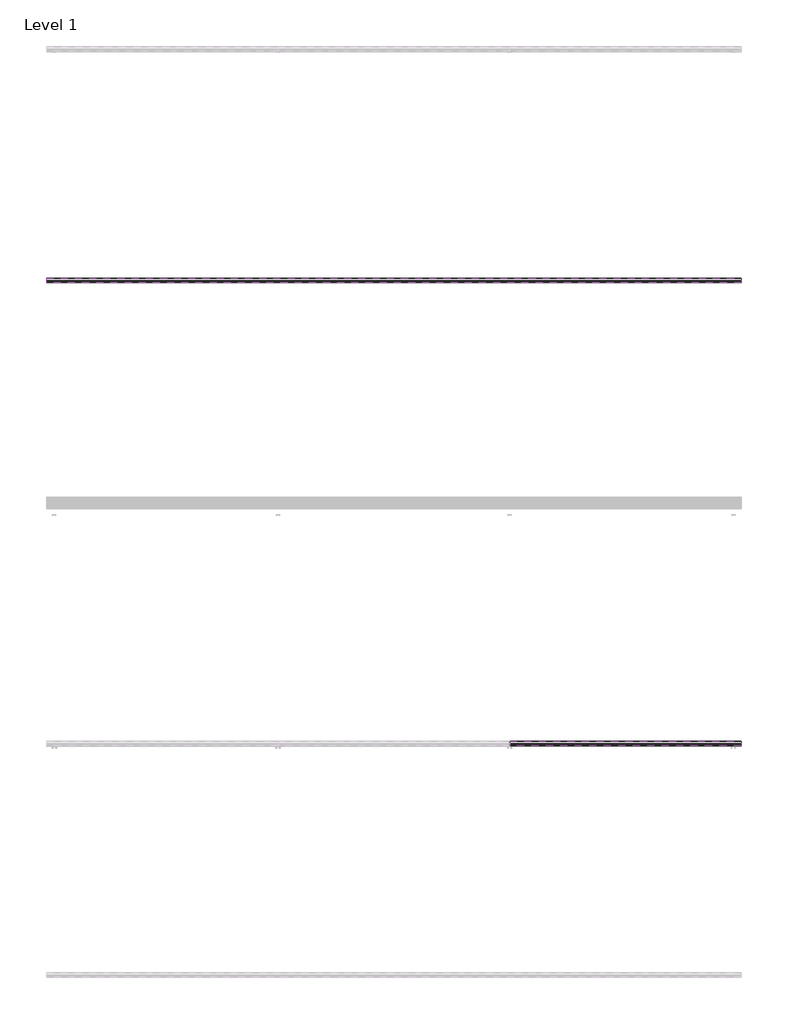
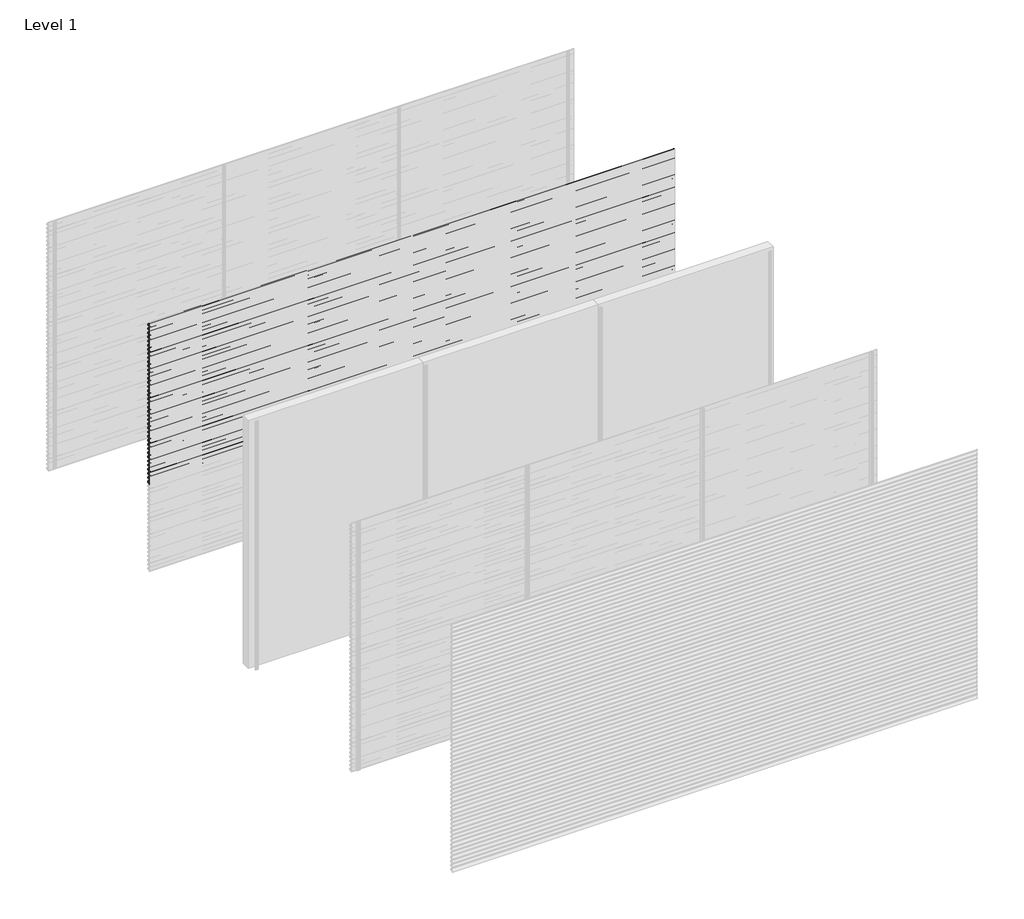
# One storey, part 35 of 38: 66 proxies.
"""IFC4 building model written with IfcOpenShell, lengths in millimetres."""

from ifc_helpers import new_model, si_unit, frame, origin, place, context, project, spatial, polyline, outline, extrude, element, save

model = new_model("IFC4")

# Units and contexts
model_context = context("Model", 3, world=origin())
ifc_project = project(units=[si_unit("LENGTHUNIT", "METRE", prefix="MILLI")], contexts=[model_context])

# Site, building, storey
site = spatial("IfcSite", under=ifc_project)
building = spatial("IfcBuilding", under=site)
storey = spatial("IfcBuildingStorey", under=building, Name="Level 1", Elevation=0.0)

# Proxies
placement = place(None, origin())
element("IfcBuildingElementProxy", 1, Name="Wall Sweeps", at=placement, inside=storey, context=model_context, shape_type="SweptSolid", body=[
    extrude(outline(polyline([(-1996.75, 3000.0), (-1996.75, 2989.19656), (-1974.6057113, 2976.4115489), (-1957.0, 2959.0472005), (-1957.0, 2944.0472005), (-1958.3, 2945.0268207), (-1958.3, 2958.5034593), (-1969.4914725, 2969.541504), (-1994.2797376, 2940.0), (-1995.9767671, 2940.0), (-1970.4200307, 2970.4573323), (-1975.3999793, 2975.3690091), (-1998.0, 2988.4171371), (-1998.0, 3000.0), (-1996.75, 3000.0)])), frame((0.0, 0.0, 0.0), z_axis=(1.0, 0.0, 0.0), x_axis=(0.0, 1.0, 0.0)), (0.0, 0.0, 1.0), 6000.0),
])
element("IfcBuildingElementProxy", 2, Name="Wall Sweeps", at=placement, inside=storey, context=model_context, shape_type="SweptSolid", body=[
    extrude(outline(polyline([(-1996.75, 2950.0), (-1996.75, 2939.19656), (-1974.6057113, 2926.4115489), (-1957.0, 2909.0472005), (-1957.0, 2894.0472005), (-1958.3, 2895.0268207), (-1958.3, 2908.5034593), (-1969.4914725, 2919.541504), (-1994.2797376, 2890.0), (-1995.9767671, 2890.0), (-1970.4200307, 2920.4573323), (-1975.3999793, 2925.3690091), (-1998.0, 2938.4171371), (-1998.0, 2950.0), (-1996.75, 2950.0)])), frame((0.0, 0.0, 0.0), z_axis=(1.0, 0.0, 0.0), x_axis=(0.0, 1.0, 0.0)), (0.0, 0.0, 1.0), 6000.0),
])
element("IfcBuildingElementProxy", 3, Name="Wall Sweeps", at=placement, inside=storey, context=model_context, shape_type="SweptSolid", body=[
    extrude(outline(polyline([(-1996.75, 2900.0), (-1996.75, 2889.19656), (-1974.6057113, 2876.4115489), (-1957.0, 2859.0472005), (-1957.0, 2844.0472005), (-1958.3, 2845.0268207), (-1958.3, 2858.5034593), (-1969.4914725, 2869.541504), (-1994.2797376, 2840.0), (-1995.9767671, 2840.0), (-1970.4200307, 2870.4573323), (-1975.3999793, 2875.3690091), (-1998.0, 2888.4171371), (-1998.0, 2900.0), (-1996.75, 2900.0)])), frame((0.0, 0.0, 0.0), z_axis=(1.0, 0.0, 0.0), x_axis=(0.0, 1.0, 0.0)), (0.0, 0.0, 1.0), 6000.0),
])
element("IfcBuildingElementProxy", 4, Name="Wall Sweeps", at=placement, inside=storey, context=model_context, shape_type="SweptSolid", body=[
    extrude(outline(polyline([(-1996.75, 2850.0), (-1996.75, 2839.19656), (-1974.6057113, 2826.4115489), (-1957.0, 2809.0472005), (-1957.0, 2794.0472005), (-1958.3, 2795.0268207), (-1958.3, 2808.5034593), (-1969.4914725, 2819.541504), (-1994.2797376, 2790.0), (-1995.9767671, 2790.0), (-1970.4200307, 2820.4573323), (-1975.3999793, 2825.3690091), (-1998.0, 2838.4171371), (-1998.0, 2850.0), (-1996.75, 2850.0)])), frame((0.0, 0.0, 0.0), z_axis=(1.0, 0.0, 0.0), x_axis=(0.0, 1.0, 0.0)), (0.0, 0.0, 1.0), 6000.0),
])
element("IfcBuildingElementProxy", 5, Name="Wall Sweeps", at=placement, inside=storey, context=model_context, shape_type="SweptSolid", body=[
    extrude(outline(polyline([(-1996.75, 2800.0), (-1996.75, 2789.19656), (-1974.6057113, 2776.4115489), (-1957.0, 2759.0472005), (-1957.0, 2744.0472005), (-1958.3, 2745.0268207), (-1958.3, 2758.5034593), (-1969.4914725, 2769.541504), (-1994.2797376, 2740.0), (-1995.9767671, 2740.0), (-1970.4200307, 2770.4573323), (-1975.3999793, 2775.3690091), (-1998.0, 2788.4171371), (-1998.0, 2800.0), (-1996.75, 2800.0)])), frame((0.0, 0.0, 0.0), z_axis=(1.0, 0.0, 0.0), x_axis=(0.0, 1.0, 0.0)), (0.0, 0.0, 1.0), 6000.0),
])
element("IfcBuildingElementProxy", 6, Name="Wall Sweeps", at=placement, inside=storey, context=model_context, shape_type="SweptSolid", body=[
    extrude(outline(polyline([(-1996.75, 2750.0), (-1996.75, 2739.19656), (-1974.6057113, 2726.4115489), (-1957.0, 2709.0472005), (-1957.0, 2694.0472005), (-1958.3, 2695.0268207), (-1958.3, 2708.5034593), (-1969.4914725, 2719.541504), (-1994.2797376, 2690.0), (-1995.9767671, 2690.0), (-1970.4200307, 2720.4573323), (-1975.3999793, 2725.3690091), (-1998.0, 2738.4171371), (-1998.0, 2750.0), (-1996.75, 2750.0)])), frame((0.0, 0.0, 0.0), z_axis=(1.0, 0.0, 0.0), x_axis=(0.0, 1.0, 0.0)), (0.0, 0.0, 1.0), 6000.0),
])
element("IfcBuildingElementProxy", 7, Name="Wall Sweeps", at=placement, inside=storey, context=model_context, shape_type="SweptSolid", body=[
    extrude(outline(polyline([(-1996.75, 2700.0), (-1996.75, 2689.19656), (-1974.6057113, 2676.4115489), (-1957.0, 2659.0472005), (-1957.0, 2644.0472005), (-1958.3, 2645.0268207), (-1958.3, 2658.5034593), (-1969.4914725, 2669.541504), (-1994.2797376, 2640.0), (-1995.9767671, 2640.0), (-1970.4200307, 2670.4573323), (-1975.3999793, 2675.3690091), (-1998.0, 2688.4171371), (-1998.0, 2700.0), (-1996.75, 2700.0)])), frame((0.0, 0.0, 0.0), z_axis=(1.0, 0.0, 0.0), x_axis=(0.0, 1.0, 0.0)), (0.0, 0.0, 1.0), 6000.0),
])
element("IfcBuildingElementProxy", 8, Name="Wall Sweeps", at=placement, inside=storey, context=model_context, shape_type="SweptSolid", body=[
    extrude(outline(polyline([(-1996.75, 2650.0), (-1996.75, 2639.19656), (-1974.6057113, 2626.4115489), (-1957.0, 2609.0472005), (-1957.0, 2594.0472005), (-1958.3, 2595.0268207), (-1958.3, 2608.5034593), (-1969.4914725, 2619.541504), (-1994.2797376, 2590.0), (-1995.9767671, 2590.0), (-1970.4200307, 2620.4573323), (-1975.3999793, 2625.3690091), (-1998.0, 2638.4171371), (-1998.0, 2650.0), (-1996.75, 2650.0)])), frame((0.0, 0.0, 0.0), z_axis=(1.0, 0.0, 0.0), x_axis=(0.0, 1.0, 0.0)), (0.0, 0.0, 1.0), 6000.0),
])
element("IfcBuildingElementProxy", 9, Name="Wall Sweeps", at=placement, inside=storey, context=model_context, shape_type="SweptSolid", body=[
    extrude(outline(polyline([(-1996.75, 2600.0), (-1996.75, 2589.19656), (-1974.6057113, 2576.4115489), (-1957.0, 2559.0472005), (-1957.0, 2544.0472005), (-1958.3, 2545.0268207), (-1958.3, 2558.5034593), (-1969.4914725, 2569.541504), (-1994.2797376, 2540.0), (-1995.9767671, 2540.0), (-1970.4200307, 2570.4573323), (-1975.3999793, 2575.3690091), (-1998.0, 2588.4171371), (-1998.0, 2600.0), (-1996.75, 2600.0)])), frame((0.0, 0.0, 0.0), z_axis=(1.0, 0.0, 0.0), x_axis=(0.0, 1.0, 0.0)), (0.0, 0.0, 1.0), 6000.0),
])
element("IfcBuildingElementProxy", 10, Name="Wall Sweeps", at=placement, inside=storey, context=model_context, shape_type="SweptSolid", body=[
    extrude(outline(polyline([(-1996.75, 2550.0), (-1996.75, 2539.19656), (-1974.6057113, 2526.4115489), (-1957.0, 2509.0472005), (-1957.0, 2494.0472005), (-1958.3, 2495.0268207), (-1958.3, 2508.5034593), (-1969.4914725, 2519.541504), (-1994.2797376, 2490.0), (-1995.9767671, 2490.0), (-1970.4200307, 2520.4573323), (-1975.3999793, 2525.3690091), (-1998.0, 2538.4171371), (-1998.0, 2550.0), (-1996.75, 2550.0)])), frame((0.0, 0.0, 0.0), z_axis=(1.0, 0.0, 0.0), x_axis=(0.0, 1.0, 0.0)), (0.0, 0.0, 1.0), 6000.0),
])
element("IfcBuildingElementProxy", 11, Name="Wall Sweeps", at=placement, inside=storey, context=model_context, shape_type="SweptSolid", body=[
    extrude(outline(polyline([(-1996.75, 2500.0), (-1996.75, 2489.19656), (-1974.6057113, 2476.4115489), (-1957.0, 2459.0472005), (-1957.0, 2444.0472005), (-1958.3, 2445.0268207), (-1958.3, 2458.5034593), (-1969.4914725, 2469.541504), (-1994.2797376, 2440.0), (-1995.9767671, 2440.0), (-1970.4200307, 2470.4573323), (-1975.3999793, 2475.3690091), (-1998.0, 2488.4171371), (-1998.0, 2500.0), (-1996.75, 2500.0)])), frame((0.0, 0.0, 0.0), z_axis=(1.0, 0.0, 0.0), x_axis=(0.0, 1.0, 0.0)), (0.0, 0.0, 1.0), 6000.0),
])
element("IfcBuildingElementProxy", 12, Name="Wall Sweeps", at=placement, inside=storey, context=model_context, shape_type="SweptSolid", body=[
    extrude(outline(polyline([(-1996.75, 2450.0), (-1996.75, 2439.19656), (-1974.6057113, 2426.4115489), (-1957.0, 2409.0472005), (-1957.0, 2394.0472005), (-1958.3, 2395.0268207), (-1958.3, 2408.5034593), (-1969.4914725, 2419.541504), (-1994.2797376, 2390.0), (-1995.9767671, 2390.0), (-1970.4200307, 2420.4573323), (-1975.3999793, 2425.3690091), (-1998.0, 2438.4171371), (-1998.0, 2450.0), (-1996.75, 2450.0)])), frame((0.0, 0.0, 0.0), z_axis=(1.0, 0.0, 0.0), x_axis=(0.0, 1.0, 0.0)), (0.0, 0.0, 1.0), 6000.0),
])
element("IfcBuildingElementProxy", 13, Name="Wall Sweeps", at=placement, inside=storey, context=model_context, shape_type="SweptSolid", body=[
    extrude(outline(polyline([(-1996.75, 2400.0), (-1996.75, 2389.19656), (-1974.6057113, 2376.4115489), (-1957.0, 2359.0472005), (-1957.0, 2344.0472005), (-1958.3, 2345.0268207), (-1958.3, 2358.5034593), (-1969.4914725, 2369.541504), (-1994.2797376, 2340.0), (-1995.9767671, 2340.0), (-1970.4200307, 2370.4573323), (-1975.3999793, 2375.3690091), (-1998.0, 2388.4171371), (-1998.0, 2400.0), (-1996.75, 2400.0)])), frame((0.0, 0.0, 0.0), z_axis=(1.0, 0.0, 0.0), x_axis=(0.0, 1.0, 0.0)), (0.0, 0.0, 1.0), 6000.0),
])
element("IfcBuildingElementProxy", 14, Name="Wall Sweeps", at=placement, inside=storey, context=model_context, shape_type="SweptSolid", body=[
    extrude(outline(polyline([(-1996.75, 2350.0), (-1996.75, 2339.19656), (-1974.6057113, 2326.4115489), (-1957.0, 2309.0472005), (-1957.0, 2294.0472005), (-1958.3, 2295.0268207), (-1958.3, 2308.5034593), (-1969.4914725, 2319.541504), (-1994.2797376, 2290.0), (-1995.9767671, 2290.0), (-1970.4200307, 2320.4573323), (-1975.3999793, 2325.3690091), (-1998.0, 2338.4171371), (-1998.0, 2350.0), (-1996.75, 2350.0)])), frame((0.0, 0.0, 0.0), z_axis=(1.0, 0.0, 0.0), x_axis=(0.0, 1.0, 0.0)), (0.0, 0.0, 1.0), 6000.0),
])
element("IfcBuildingElementProxy", 15, Name="Wall Sweeps", at=placement, inside=storey, context=model_context, shape_type="SweptSolid", body=[
    extrude(outline(polyline([(-1996.75, 2300.0), (-1996.75, 2289.19656), (-1974.6057113, 2276.4115489), (-1957.0, 2259.0472005), (-1957.0, 2244.0472005), (-1958.3, 2245.0268207), (-1958.3, 2258.5034593), (-1969.4914725, 2269.541504), (-1994.2797376, 2240.0), (-1995.9767671, 2240.0), (-1970.4200307, 2270.4573323), (-1975.3999793, 2275.3690091), (-1998.0, 2288.4171371), (-1998.0, 2300.0), (-1996.75, 2300.0)])), frame((0.0, 0.0, 0.0), z_axis=(1.0, 0.0, 0.0), x_axis=(0.0, 1.0, 0.0)), (0.0, 0.0, 1.0), 6000.0),
])
element("IfcBuildingElementProxy", 16, Name="Wall Sweeps", at=placement, inside=storey, context=model_context, shape_type="SweptSolid", body=[
    extrude(outline(polyline([(-1996.75, 2250.0), (-1996.75, 2239.19656), (-1974.6057113, 2226.4115489), (-1957.0, 2209.0472005), (-1957.0, 2194.0472005), (-1958.3, 2195.0268207), (-1958.3, 2208.5034593), (-1969.4914725, 2219.541504), (-1994.2797376, 2190.0), (-1995.9767671, 2190.0), (-1970.4200307, 2220.4573323), (-1975.3999793, 2225.3690091), (-1998.0, 2238.4171371), (-1998.0, 2250.0), (-1996.75, 2250.0)])), frame((0.0, 0.0, 0.0), z_axis=(1.0, 0.0, 0.0), x_axis=(0.0, 1.0, 0.0)), (0.0, 0.0, 1.0), 6000.0),
])
element("IfcBuildingElementProxy", 17, Name="Wall Sweeps", at=placement, inside=storey, context=model_context, shape_type="SweptSolid", body=[
    extrude(outline(polyline([(-1996.75, 2200.0), (-1996.75, 2189.19656), (-1974.6057113, 2176.4115489), (-1957.0, 2159.0472005), (-1957.0, 2144.0472005), (-1958.3, 2145.0268207), (-1958.3, 2158.5034593), (-1969.4914725, 2169.541504), (-1994.2797376, 2140.0), (-1995.9767671, 2140.0), (-1970.4200307, 2170.4573323), (-1975.3999793, 2175.3690091), (-1998.0, 2188.4171371), (-1998.0, 2200.0), (-1996.75, 2200.0)])), frame((0.0, 0.0, 0.0), z_axis=(1.0, 0.0, 0.0), x_axis=(0.0, 1.0, 0.0)), (0.0, 0.0, 1.0), 6000.0),
])
element("IfcBuildingElementProxy", 18, Name="Wall Sweeps", at=placement, inside=storey, context=model_context, shape_type="SweptSolid", body=[
    extrude(outline(polyline([(-1996.75, 2150.0), (-1996.75, 2139.19656), (-1974.6057113, 2126.4115489), (-1957.0, 2109.0472005), (-1957.0, 2094.0472005), (-1958.3, 2095.0268207), (-1958.3, 2108.5034593), (-1969.4914725, 2119.541504), (-1994.2797376, 2090.0), (-1995.9767671, 2090.0), (-1970.4200307, 2120.4573323), (-1975.3999793, 2125.3690091), (-1998.0, 2138.4171371), (-1998.0, 2150.0), (-1996.75, 2150.0)])), frame((0.0, 0.0, 0.0), z_axis=(1.0, 0.0, 0.0), x_axis=(0.0, 1.0, 0.0)), (0.0, 0.0, 1.0), 6000.0),
])
element("IfcBuildingElementProxy", 19, Name="Wall Sweeps", at=placement, inside=storey, context=model_context, shape_type="SweptSolid", body=[
    extrude(outline(polyline([(-1996.75, 2100.0), (-1996.75, 2089.19656), (-1974.6057113, 2076.4115489), (-1957.0, 2059.0472005), (-1957.0, 2044.0472005), (-1958.3, 2045.0268207), (-1958.3, 2058.5034593), (-1969.4914725, 2069.541504), (-1994.2797376, 2040.0), (-1995.9767671, 2040.0), (-1970.4200307, 2070.4573323), (-1975.3999793, 2075.3690091), (-1998.0, 2088.4171371), (-1998.0, 2100.0), (-1996.75, 2100.0)])), frame((0.0, 0.0, 0.0), z_axis=(1.0, 0.0, 0.0), x_axis=(0.0, 1.0, 0.0)), (0.0, 0.0, 1.0), 6000.0),
])
element("IfcBuildingElementProxy", 20, Name="Wall Sweeps", at=placement, inside=storey, context=model_context, shape_type="SweptSolid", body=[
    extrude(outline(polyline([(-1996.75, 2050.0), (-1996.75, 2039.19656), (-1974.6057113, 2026.4115489), (-1957.0, 2009.0472005), (-1957.0, 1994.0472005), (-1958.3, 1995.0268207), (-1958.3, 2008.5034593), (-1969.4914725, 2019.541504), (-1994.2797376, 1990.0), (-1995.9767671, 1990.0), (-1970.4200307, 2020.4573323), (-1975.3999793, 2025.3690091), (-1998.0, 2038.4171371), (-1998.0, 2050.0), (-1996.75, 2050.0)])), frame((0.0, 0.0, 0.0), z_axis=(1.0, 0.0, 0.0), x_axis=(0.0, 1.0, 0.0)), (0.0, 0.0, 1.0), 6000.0),
])
element("IfcBuildingElementProxy", 21, Name="Wall Sweeps", at=placement, inside=storey, context=model_context, shape_type="SweptSolid", body=[
    extrude(outline(polyline([(-1996.75, 2000.0), (-1996.75, 1989.19656), (-1974.6057113, 1976.4115489), (-1957.0, 1959.0472005), (-1957.0, 1944.0472005), (-1958.3, 1945.0268207), (-1958.3, 1958.5034593), (-1969.4914725, 1969.541504), (-1994.2797376, 1940.0), (-1995.9767671, 1940.0), (-1970.4200307, 1970.4573323), (-1975.3999793, 1975.3690091), (-1998.0, 1988.4171371), (-1998.0, 2000.0), (-1996.75, 2000.0)])), frame((0.0, 0.0, 0.0), z_axis=(1.0, 0.0, 0.0), x_axis=(0.0, 1.0, 0.0)), (0.0, 0.0, 1.0), 6000.0),
])
element("IfcBuildingElementProxy", 22, Name="Wall Sweeps", at=placement, inside=storey, context=model_context, shape_type="SweptSolid", body=[
    extrude(outline(polyline([(-1996.75, 1950.0), (-1996.75, 1939.19656), (-1974.6057113, 1926.4115489), (-1957.0, 1909.0472005), (-1957.0, 1894.0472005), (-1958.3, 1895.0268207), (-1958.3, 1908.5034593), (-1969.4914725, 1919.541504), (-1994.2797376, 1890.0), (-1995.9767671, 1890.0), (-1970.4200307, 1920.4573323), (-1975.3999793, 1925.3690091), (-1998.0, 1938.4171371), (-1998.0, 1950.0), (-1996.75, 1950.0)])), frame((0.0, 0.0, 0.0), z_axis=(1.0, 0.0, 0.0), x_axis=(0.0, 1.0, 0.0)), (0.0, 0.0, 1.0), 6000.0),
])
element("IfcBuildingElementProxy", 23, Name="Wall Sweeps", at=placement, inside=storey, context=model_context, shape_type="SweptSolid", body=[
    extrude(outline(polyline([(-1996.75, 1900.0), (-1996.75, 1889.19656), (-1974.6057113, 1876.4115489), (-1957.0, 1859.0472005), (-1957.0, 1844.0472005), (-1958.3, 1845.0268207), (-1958.3, 1858.5034593), (-1969.4914725, 1869.541504), (-1994.2797376, 1840.0), (-1995.9767671, 1840.0), (-1970.4200307, 1870.4573323), (-1975.3999793, 1875.3690091), (-1998.0, 1888.4171371), (-1998.0, 1900.0), (-1996.75, 1900.0)])), frame((0.0, 0.0, 0.0), z_axis=(1.0, 0.0, 0.0), x_axis=(0.0, 1.0, 0.0)), (0.0, 0.0, 1.0), 6000.0),
])
element("IfcBuildingElementProxy", 24, Name="Wall Sweeps", at=placement, inside=storey, context=model_context, shape_type="SweptSolid", body=[
    extrude(outline(polyline([(-1996.75, 1850.0), (-1996.75, 1839.19656), (-1974.6057113, 1826.4115489), (-1957.0, 1809.0472005), (-1957.0, 1794.0472005), (-1958.3, 1795.0268207), (-1958.3, 1808.5034593), (-1969.4914725, 1819.541504), (-1994.2797376, 1790.0), (-1995.9767671, 1790.0), (-1970.4200307, 1820.4573323), (-1975.3999793, 1825.3690091), (-1998.0, 1838.4171371), (-1998.0, 1850.0), (-1996.75, 1850.0)])), frame((0.0, 0.0, 0.0), z_axis=(1.0, 0.0, 0.0), x_axis=(0.0, 1.0, 0.0)), (0.0, 0.0, 1.0), 6000.0),
])
element("IfcBuildingElementProxy", 25, Name="Wall Sweeps", at=placement, inside=storey, context=model_context, shape_type="SweptSolid", body=[
    extrude(outline(polyline([(-1996.75, 1800.0), (-1996.75, 1789.19656), (-1974.6057113, 1776.4115489), (-1957.0, 1759.0472005), (-1957.0, 1744.0472005), (-1958.3, 1745.0268207), (-1958.3, 1758.5034593), (-1969.4914725, 1769.541504), (-1994.2797376, 1740.0), (-1995.9767671, 1740.0), (-1970.4200307, 1770.4573323), (-1975.3999793, 1775.3690091), (-1998.0, 1788.4171371), (-1998.0, 1800.0), (-1996.75, 1800.0)])), frame((0.0, 0.0, 0.0), z_axis=(1.0, 0.0, 0.0), x_axis=(0.0, 1.0, 0.0)), (0.0, 0.0, 1.0), 6000.0),
])
element("IfcBuildingElementProxy", 26, Name="Wall Sweeps", at=placement, inside=storey, context=model_context, shape_type="SweptSolid", body=[
    extrude(outline(polyline([(-1996.75, 1750.0), (-1996.75, 1739.19656), (-1974.6057113, 1726.4115489), (-1957.0, 1709.0472005), (-1957.0, 1694.0472005), (-1958.3, 1695.0268207), (-1958.3, 1708.5034593), (-1969.4914725, 1719.541504), (-1994.2797376, 1690.0), (-1995.9767671, 1690.0), (-1970.4200307, 1720.4573323), (-1975.3999793, 1725.3690091), (-1998.0, 1738.4171371), (-1998.0, 1750.0), (-1996.75, 1750.0)])), frame((0.0, 0.0, 0.0), z_axis=(1.0, 0.0, 0.0), x_axis=(0.0, 1.0, 0.0)), (0.0, 0.0, 1.0), 6000.0),
])
element("IfcBuildingElementProxy", 27, Name="Wall Sweeps", at=placement, inside=storey, context=model_context, shape_type="SweptSolid", body=[
    extrude(outline(polyline([(-1996.75, 1700.0), (-1996.75, 1689.19656), (-1974.6057113, 1676.4115489), (-1957.0, 1659.0472005), (-1957.0, 1644.0472005), (-1958.3, 1645.0268207), (-1958.3, 1658.5034593), (-1969.4914725, 1669.541504), (-1994.2797376, 1640.0), (-1995.9767671, 1640.0), (-1970.4200307, 1670.4573323), (-1975.3999793, 1675.3690091), (-1998.0, 1688.4171371), (-1998.0, 1700.0), (-1996.75, 1700.0)])), frame((0.0, 0.0, 0.0), z_axis=(1.0, 0.0, 0.0), x_axis=(0.0, 1.0, 0.0)), (0.0, 0.0, 1.0), 6000.0),
])
element("IfcBuildingElementProxy", 28, Name="Wall Sweeps", at=placement, inside=storey, context=model_context, shape_type="SweptSolid", body=[
    extrude(outline(polyline([(-1996.75, 1650.0), (-1996.75, 1639.19656), (-1974.6057113, 1626.4115489), (-1957.0, 1609.0472005), (-1957.0, 1594.0472005), (-1958.3, 1595.0268207), (-1958.3, 1608.5034593), (-1969.4914725, 1619.541504), (-1994.2797376, 1590.0), (-1995.9767671, 1590.0), (-1970.4200307, 1620.4573323), (-1975.3999793, 1625.3690091), (-1998.0, 1638.4171371), (-1998.0, 1650.0), (-1996.75, 1650.0)])), frame((0.0, 0.0, 0.0), z_axis=(1.0, 0.0, 0.0), x_axis=(0.0, 1.0, 0.0)), (0.0, 0.0, 1.0), 6000.0),
])
element("IfcBuildingElementProxy", 29, Name="Wall Sweeps", at=placement, inside=storey, context=model_context, shape_type="SweptSolid", body=[
    extrude(outline(polyline([(-1996.75, 1600.0), (-1996.75, 1589.19656), (-1974.6057113, 1576.4115489), (-1957.0, 1559.0472005), (-1957.0, 1544.0472005), (-1958.3, 1545.0268207), (-1958.3, 1558.5034593), (-1969.4914725, 1569.541504), (-1994.2797376, 1540.0), (-1995.9767671, 1540.0), (-1970.4200307, 1570.4573323), (-1975.3999793, 1575.3690091), (-1998.0, 1588.4171371), (-1998.0, 1600.0), (-1996.75, 1600.0)])), frame((0.0, 0.0, 0.0), z_axis=(1.0, 0.0, 0.0), x_axis=(0.0, 1.0, 0.0)), (0.0, 0.0, 1.0), 6000.0),
])
element("IfcBuildingElementProxy", 30, Name="Wall Sweeps", at=placement, inside=storey, context=model_context, shape_type="SweptSolid", body=[
    extrude(outline(polyline([(-1996.75, 1550.0), (-1996.75, 1539.19656), (-1974.6057113, 1526.4115489), (-1957.0, 1509.0472005), (-1957.0, 1494.0472005), (-1958.3, 1495.0268207), (-1958.3, 1508.5034593), (-1969.4914725, 1519.541504), (-1994.2797376, 1490.0), (-1995.9767671, 1490.0), (-1970.4200307, 1520.4573323), (-1975.3999793, 1525.3690091), (-1998.0, 1538.4171371), (-1998.0, 1550.0), (-1996.75, 1550.0)])), frame((0.0, 0.0, 0.0), z_axis=(1.0, 0.0, 0.0), x_axis=(0.0, 1.0, 0.0)), (0.0, 0.0, 1.0), 6000.0),
])
element("IfcBuildingElementProxy", 31, Name="Wall Sweeps", at=placement, inside=storey, context=model_context, shape_type="SweptSolid", body=[
    extrude(outline(polyline([(-1996.75, 1500.0), (-1996.75, 1489.19656), (-1974.6057113, 1476.4115489), (-1957.0, 1459.0472005), (-1957.0, 1444.0472005), (-1958.3, 1445.0268207), (-1958.3, 1458.5034593), (-1969.4914725, 1469.541504), (-1994.2797376, 1440.0), (-1995.9767671, 1440.0), (-1970.4200307, 1470.4573323), (-1975.3999793, 1475.3690091), (-1998.0, 1488.4171371), (-1998.0, 1500.0), (-1996.75, 1500.0)])), frame((0.0, 0.0, 0.0), z_axis=(1.0, 0.0, 0.0), x_axis=(0.0, 1.0, 0.0)), (0.0, 0.0, 1.0), 6000.0),
])
element("IfcBuildingElementProxy", 32, Name="Wall Sweeps", at=placement, inside=storey, context=model_context, shape_type="SweptSolid", body=[
    extrude(outline(polyline([(-1996.75, 1450.0), (-1996.75, 1439.19656), (-1974.6057113, 1426.4115489), (-1957.0, 1409.0472005), (-1957.0, 1394.0472005), (-1958.3, 1395.0268207), (-1958.3, 1408.5034593), (-1969.4914725, 1419.541504), (-1994.2797376, 1390.0), (-1995.9767671, 1390.0), (-1970.4200307, 1420.4573323), (-1975.3999793, 1425.3690091), (-1998.0, 1438.4171371), (-1998.0, 1450.0), (-1996.75, 1450.0)])), frame((0.0, 0.0, 0.0), z_axis=(1.0, 0.0, 0.0), x_axis=(0.0, 1.0, 0.0)), (0.0, 0.0, 1.0), 6000.0),
])
element("IfcBuildingElementProxy", 33, Name="Wall Sweeps", at=placement, inside=storey, context=model_context, shape_type="SweptSolid", body=[
    extrude(outline(polyline([(-1996.75, 1400.0), (-1996.75, 1389.19656), (-1974.6057113, 1376.4115489), (-1957.0, 1359.0472005), (-1957.0, 1344.0472005), (-1958.3, 1345.0268207), (-1958.3, 1358.5034593), (-1969.4914725, 1369.541504), (-1994.2797376, 1340.0), (-1995.9767671, 1340.0), (-1970.4200307, 1370.4573323), (-1975.3999793, 1375.3690091), (-1998.0, 1388.4171371), (-1998.0, 1400.0), (-1996.75, 1400.0)])), frame((0.0, 0.0, 0.0), z_axis=(1.0, 0.0, 0.0), x_axis=(0.0, 1.0, 0.0)), (0.0, 0.0, 1.0), 6000.0),
])
element("IfcBuildingElementProxy", 34, Name="Wall Sweeps", at=placement, inside=storey, context=model_context, shape_type="SweptSolid", body=[
    extrude(outline(polyline([(-1996.75, 1350.0), (-1996.75, 1339.19656), (-1974.6057113, 1326.4115489), (-1957.0, 1309.0472005), (-1957.0, 1294.0472005), (-1958.3, 1295.0268207), (-1958.3, 1308.5034593), (-1969.4914725, 1319.541504), (-1994.2797376, 1290.0), (-1995.9767671, 1290.0), (-1970.4200307, 1320.4573323), (-1975.3999793, 1325.3690091), (-1998.0, 1338.4171371), (-1998.0, 1350.0), (-1996.75, 1350.0)])), frame((0.0, 0.0, 0.0), z_axis=(1.0, 0.0, 0.0), x_axis=(0.0, 1.0, 0.0)), (0.0, 0.0, 1.0), 6000.0),
])
element("IfcBuildingElementProxy", 35, Name="Wall Sweeps", at=placement, inside=storey, context=model_context, shape_type="SweptSolid", body=[
    extrude(outline(polyline([(-1996.75, 1300.0), (-1996.75, 1289.19656), (-1974.6057113, 1276.4115489), (-1957.0, 1259.0472005), (-1957.0, 1244.0472005), (-1958.3, 1245.0268207), (-1958.3, 1258.5034593), (-1969.4914725, 1269.541504), (-1994.2797376, 1240.0), (-1995.9767671, 1240.0), (-1970.4200307, 1270.4573323), (-1975.3999793, 1275.3690091), (-1998.0, 1288.4171371), (-1998.0, 1300.0), (-1996.75, 1300.0)])), frame((0.0, 0.0, 0.0), z_axis=(1.0, 0.0, 0.0), x_axis=(0.0, 1.0, 0.0)), (0.0, 0.0, 1.0), 6000.0),
])
element("IfcBuildingElementProxy", 36, Name="Wall Sweeps", at=placement, inside=storey, context=model_context, shape_type="SweptSolid", body=[
    extrude(outline(polyline([(-1996.75, 1250.0), (-1996.75, 1239.19656), (-1974.6057113, 1226.4115489), (-1957.0, 1209.0472005), (-1957.0, 1194.0472005), (-1958.3, 1195.0268207), (-1958.3, 1208.5034593), (-1969.4914725, 1219.541504), (-1994.2797376, 1190.0), (-1995.9767671, 1190.0), (-1970.4200307, 1220.4573323), (-1975.3999793, 1225.3690091), (-1998.0, 1238.4171371), (-1998.0, 1250.0), (-1996.75, 1250.0)])), frame((0.0, 0.0, 0.0), z_axis=(1.0, 0.0, 0.0), x_axis=(0.0, 1.0, 0.0)), (0.0, 0.0, 1.0), 6000.0),
])
element("IfcBuildingElementProxy", 37, Name="Wall Sweeps", at=placement, inside=storey, context=model_context, shape_type="SweptSolid", body=[
    extrude(outline(polyline([(-1996.75, 1200.0), (-1996.75, 1189.19656), (-1974.6057113, 1176.4115489), (-1957.0, 1159.0472005), (-1957.0, 1144.0472005), (-1958.3, 1145.0268207), (-1958.3, 1158.5034593), (-1969.4914725, 1169.541504), (-1994.2797376, 1140.0), (-1995.9767671, 1140.0), (-1970.4200307, 1170.4573323), (-1975.3999793, 1175.3690091), (-1998.0, 1188.4171371), (-1998.0, 1200.0), (-1996.75, 1200.0)])), frame((0.0, 0.0, 0.0), z_axis=(1.0, 0.0, 0.0), x_axis=(0.0, 1.0, 0.0)), (0.0, 0.0, 1.0), 6000.0),
])
element("IfcBuildingElementProxy", 38, Name="Wall Sweeps", at=placement, inside=storey, context=model_context, shape_type="SweptSolid", body=[
    extrude(outline(polyline([(-1996.75, 1150.0), (-1996.75, 1139.19656), (-1974.6057113, 1126.4115489), (-1957.0, 1109.0472005), (-1957.0, 1094.0472005), (-1958.3, 1095.0268207), (-1958.3, 1108.5034593), (-1969.4914725, 1119.541504), (-1994.2797376, 1090.0), (-1995.9767671, 1090.0), (-1970.4200307, 1120.4573323), (-1975.3999793, 1125.3690091), (-1998.0, 1138.4171371), (-1998.0, 1150.0), (-1996.75, 1150.0)])), frame((0.0, 0.0, 0.0), z_axis=(1.0, 0.0, 0.0), x_axis=(0.0, 1.0, 0.0)), (0.0, 0.0, 1.0), 6000.0),
])
element("IfcBuildingElementProxy", 39, Name="Wall Sweeps", at=placement, inside=storey, context=model_context, shape_type="SweptSolid", body=[
    extrude(outline(polyline([(-1996.75, 1100.0), (-1996.75, 1089.19656), (-1974.6057113, 1076.4115489), (-1957.0, 1059.0472005), (-1957.0, 1044.0472005), (-1958.3, 1045.0268207), (-1958.3, 1058.5034593), (-1969.4914725, 1069.541504), (-1994.2797376, 1040.0), (-1995.9767671, 1040.0), (-1970.4200307, 1070.4573323), (-1975.3999793, 1075.3690091), (-1998.0, 1088.4171371), (-1998.0, 1100.0), (-1996.75, 1100.0)])), frame((0.0, 0.0, 0.0), z_axis=(1.0, 0.0, 0.0), x_axis=(0.0, 1.0, 0.0)), (0.0, 0.0, 1.0), 6000.0),
])
element("IfcBuildingElementProxy", 40, Name="Wall Sweeps", at=placement, inside=storey, context=model_context, shape_type="SweptSolid", body=[
    extrude(outline(polyline([(-5996.75, 1350.0), (-5996.75, 1339.19656), (-5974.6057113, 1326.4115489), (-5957.0, 1309.0472005), (-5957.0, 1294.0472005), (-5958.3, 1295.0268207), (-5958.3, 1308.5034593), (-5969.4914725, 1319.541504), (-5994.2797376, 1290.0), (-5995.9767671, 1290.0), (-5970.4200307, 1320.4573323), (-5975.3999793, 1325.3690091), (-5998.0, 1338.4171371), (-5998.0, 1350.0), (-5996.75, 1350.0)])), frame((4000.0, 0.0, 0.0), z_axis=(1.0, 0.0, 0.0), x_axis=(0.0, 1.0, 0.0)), (0.0, 0.0, 1.0), 2000.0),
])
element("IfcBuildingElementProxy", 41, Name="Wall Sweeps", at=placement, inside=storey, context=model_context, shape_type="SweptSolid", body=[
    extrude(outline(polyline([(-5996.75, 1300.0), (-5996.75, 1289.19656), (-5974.6057113, 1276.4115489), (-5957.0, 1259.0472005), (-5957.0, 1244.0472005), (-5958.3, 1245.0268207), (-5958.3, 1258.5034593), (-5969.4914725, 1269.541504), (-5994.2797376, 1240.0), (-5995.9767671, 1240.0), (-5970.4200307, 1270.4573323), (-5975.3999793, 1275.3690091), (-5998.0, 1288.4171371), (-5998.0, 1300.0), (-5996.75, 1300.0)])), frame((4000.0, 0.0, 0.0), z_axis=(1.0, 0.0, 0.0), x_axis=(0.0, 1.0, 0.0)), (0.0, 0.0, 1.0), 2000.0),
])
element("IfcBuildingElementProxy", 42, Name="Wall Sweeps", at=placement, inside=storey, context=model_context, shape_type="SweptSolid", body=[
    extrude(outline(polyline([(-5996.75, 1250.0), (-5996.75, 1239.19656), (-5974.6057113, 1226.4115489), (-5957.0, 1209.0472005), (-5957.0, 1194.0472005), (-5958.3, 1195.0268207), (-5958.3, 1208.5034593), (-5969.4914725, 1219.541504), (-5994.2797376, 1190.0), (-5995.9767671, 1190.0), (-5970.4200307, 1220.4573323), (-5975.3999793, 1225.3690091), (-5998.0, 1238.4171371), (-5998.0, 1250.0), (-5996.75, 1250.0)])), frame((4000.0, 0.0, 0.0), z_axis=(1.0, 0.0, 0.0), x_axis=(0.0, 1.0, 0.0)), (0.0, 0.0, 1.0), 2000.0),
])
element("IfcBuildingElementProxy", 43, Name="Wall Sweeps", at=placement, inside=storey, context=model_context, shape_type="SweptSolid", body=[
    extrude(outline(polyline([(-5996.75, 1200.0), (-5996.75, 1189.19656), (-5974.6057113, 1176.4115489), (-5957.0, 1159.0472005), (-5957.0, 1144.0472005), (-5958.3, 1145.0268207), (-5958.3, 1158.5034593), (-5969.4914725, 1169.541504), (-5994.2797376, 1140.0), (-5995.9767671, 1140.0), (-5970.4200307, 1170.4573323), (-5975.3999793, 1175.3690091), (-5998.0, 1188.4171371), (-5998.0, 1200.0), (-5996.75, 1200.0)])), frame((4000.0, 0.0, 0.0), z_axis=(1.0, 0.0, 0.0), x_axis=(0.0, 1.0, 0.0)), (0.0, 0.0, 1.0), 2000.0),
])
element("IfcBuildingElementProxy", 44, Name="Wall Sweeps", at=placement, inside=storey, context=model_context, shape_type="SweptSolid", body=[
    extrude(outline(polyline([(-5996.75, 1150.0), (-5996.75, 1139.19656), (-5974.6057113, 1126.4115489), (-5957.0, 1109.0472005), (-5957.0, 1094.0472005), (-5958.3, 1095.0268207), (-5958.3, 1108.5034593), (-5969.4914725, 1119.541504), (-5994.2797376, 1090.0), (-5995.9767671, 1090.0), (-5970.4200307, 1120.4573323), (-5975.3999793, 1125.3690091), (-5998.0, 1138.4171371), (-5998.0, 1150.0), (-5996.75, 1150.0)])), frame((4000.0, 0.0, 0.0), z_axis=(1.0, 0.0, 0.0), x_axis=(0.0, 1.0, 0.0)), (0.0, 0.0, 1.0), 2000.0),
])
element("IfcBuildingElementProxy", 45, Name="Wall Sweeps", at=placement, inside=storey, context=model_context, shape_type="SweptSolid", body=[
    extrude(outline(polyline([(-5996.75, 1100.0), (-5996.75, 1089.19656), (-5974.6057113, 1076.4115489), (-5957.0, 1059.0472005), (-5957.0, 1044.0472005), (-5958.3, 1045.0268207), (-5958.3, 1058.5034593), (-5969.4914725, 1069.541504), (-5994.2797376, 1040.0), (-5995.9767671, 1040.0), (-5970.4200307, 1070.4573323), (-5975.3999793, 1075.3690091), (-5998.0, 1088.4171371), (-5998.0, 1100.0), (-5996.75, 1100.0)])), frame((4000.0, 0.0, 0.0), z_axis=(1.0, 0.0, 0.0), x_axis=(0.0, 1.0, 0.0)), (0.0, 0.0, 1.0), 2000.0),
])
element("IfcBuildingElementProxy", 46, Name="Wall Sweeps", at=placement, inside=storey, context=model_context, shape_type="SweptSolid", body=[
    extrude(outline(polyline([(-5996.75, 1050.0), (-5996.75, 1039.19656), (-5974.6057113, 1026.4115489), (-5957.0, 1009.0472005), (-5957.0, 994.0472005), (-5958.3, 995.0268207), (-5958.3, 1008.5034593), (-5969.4914725, 1019.541504), (-5994.2797376, 990.0), (-5995.9767671, 990.0), (-5970.4200307, 1020.4573323), (-5975.3999793, 1025.3690091), (-5998.0, 1038.4171371), (-5998.0, 1050.0), (-5996.75, 1050.0)])), frame((4000.0, 0.0, 0.0), z_axis=(1.0, 0.0, 0.0), x_axis=(0.0, 1.0, 0.0)), (0.0, 0.0, 1.0), 2000.0),
])
element("IfcBuildingElementProxy", 47, Name="Wall Sweeps", at=placement, inside=storey, context=model_context, shape_type="SweptSolid", body=[
    extrude(outline(polyline([(-5996.75, 1000.0), (-5996.75, 989.19656), (-5974.6057113, 976.4115489), (-5957.0, 959.0472005), (-5957.0, 944.0472005), (-5958.3, 945.0268207), (-5958.3, 958.5034593), (-5969.4914725, 969.541504), (-5994.2797376, 940.0), (-5995.9767671, 940.0), (-5970.4200307, 970.4573323), (-5975.3999793, 975.3690091), (-5998.0, 988.4171371), (-5998.0, 1000.0), (-5996.75, 1000.0)])), frame((4000.0, 0.0, 0.0), z_axis=(1.0, 0.0, 0.0), x_axis=(0.0, 1.0, 0.0)), (0.0, 0.0, 1.0), 2000.0),
])
element("IfcBuildingElementProxy", 48, Name="Wall Sweeps", at=placement, inside=storey, context=model_context, shape_type="SweptSolid", body=[
    extrude(outline(polyline([(-5996.75, 950.0), (-5996.75, 939.19656), (-5974.6057113, 926.4115489), (-5957.0, 909.0472005), (-5957.0, 894.0472005), (-5958.3, 895.0268207), (-5958.3, 908.5034593), (-5969.4914725, 919.541504), (-5994.2797376, 890.0), (-5995.9767671, 890.0), (-5970.4200307, 920.4573323), (-5975.3999793, 925.3690091), (-5998.0, 938.4171371), (-5998.0, 950.0), (-5996.75, 950.0)])), frame((4000.0, 0.0, 0.0), z_axis=(1.0, 0.0, 0.0), x_axis=(0.0, 1.0, 0.0)), (0.0, 0.0, 1.0), 2000.0),
])
element("IfcBuildingElementProxy", 49, Name="Wall Sweeps", at=placement, inside=storey, context=model_context, shape_type="SweptSolid", body=[
    extrude(outline(polyline([(-5996.75, 900.0), (-5996.75, 889.19656), (-5974.6057113, 876.4115489), (-5957.0, 859.0472005), (-5957.0, 844.0472005), (-5958.3, 845.0268207), (-5958.3, 858.5034593), (-5969.4914725, 869.541504), (-5994.2797376, 840.0), (-5995.9767671, 840.0), (-5970.4200307, 870.4573323), (-5975.3999793, 875.3690091), (-5998.0, 888.4171371), (-5998.0, 900.0), (-5996.75, 900.0)])), frame((4000.0, 0.0, 0.0), z_axis=(1.0, 0.0, 0.0), x_axis=(0.0, 1.0, 0.0)), (0.0, 0.0, 1.0), 2000.0),
])
element("IfcBuildingElementProxy", 50, Name="Wall Sweeps", at=placement, inside=storey, context=model_context, shape_type="SweptSolid", body=[
    extrude(outline(polyline([(-5996.75, 850.0), (-5996.75, 839.19656), (-5974.6057113, 826.4115489), (-5957.0, 809.0472005), (-5957.0, 794.0472005), (-5958.3, 795.0268207), (-5958.3, 808.5034593), (-5969.4914725, 819.541504), (-5994.2797376, 790.0), (-5995.9767671, 790.0), (-5970.4200307, 820.4573323), (-5975.3999793, 825.3690091), (-5998.0, 838.4171371), (-5998.0, 850.0), (-5996.75, 850.0)])), frame((4000.0, 0.0, 0.0), z_axis=(1.0, 0.0, 0.0), x_axis=(0.0, 1.0, 0.0)), (0.0, 0.0, 1.0), 2000.0),
])
element("IfcBuildingElementProxy", 51, Name="Wall Sweeps", at=placement, inside=storey, context=model_context, shape_type="SweptSolid", body=[
    extrude(outline(polyline([(-5996.75, 800.0), (-5996.75, 789.19656), (-5974.6057113, 776.4115489), (-5957.0, 759.0472005), (-5957.0, 744.0472005), (-5958.3, 745.0268207), (-5958.3, 758.5034593), (-5969.4914725, 769.541504), (-5994.2797376, 740.0), (-5995.9767671, 740.0), (-5970.4200307, 770.4573323), (-5975.3999793, 775.3690091), (-5998.0, 788.4171371), (-5998.0, 800.0), (-5996.75, 800.0)])), frame((4000.0, 0.0, 0.0), z_axis=(1.0, 0.0, 0.0), x_axis=(0.0, 1.0, 0.0)), (0.0, 0.0, 1.0), 2000.0),
])
element("IfcBuildingElementProxy", 52, Name="Wall Sweeps", at=placement, inside=storey, context=model_context, shape_type="SweptSolid", body=[
    extrude(outline(polyline([(-5996.75, 750.0), (-5996.75, 739.19656), (-5974.6057113, 726.4115489), (-5957.0, 709.0472005), (-5957.0, 694.0472005), (-5958.3, 695.0268207), (-5958.3, 708.5034593), (-5969.4914725, 719.541504), (-5994.2797376, 690.0), (-5995.9767671, 690.0), (-5970.4200307, 720.4573323), (-5975.3999793, 725.3690091), (-5998.0, 738.4171371), (-5998.0, 750.0), (-5996.75, 750.0)])), frame((4000.0, 0.0, 0.0), z_axis=(1.0, 0.0, 0.0), x_axis=(0.0, 1.0, 0.0)), (0.0, 0.0, 1.0), 2000.0),
])
element("IfcBuildingElementProxy", 53, Name="Wall Sweeps", at=placement, inside=storey, context=model_context, shape_type="SweptSolid", body=[
    extrude(outline(polyline([(-5996.75, 700.0), (-5996.75, 689.19656), (-5974.6057113, 676.4115489), (-5957.0, 659.0472005), (-5957.0, 644.0472005), (-5958.3, 645.0268207), (-5958.3, 658.5034593), (-5969.4914725, 669.541504), (-5994.2797376, 640.0), (-5995.9767671, 640.0), (-5970.4200307, 670.4573323), (-5975.3999793, 675.3690091), (-5998.0, 688.4171371), (-5998.0, 700.0), (-5996.75, 700.0)])), frame((4000.0, 0.0, 0.0), z_axis=(1.0, 0.0, 0.0), x_axis=(0.0, 1.0, 0.0)), (0.0, 0.0, 1.0), 2000.0),
])
element("IfcBuildingElementProxy", 54, Name="Wall Sweeps", at=placement, inside=storey, context=model_context, shape_type="SweptSolid", body=[
    extrude(outline(polyline([(-5996.75, 650.0), (-5996.75, 639.19656), (-5974.6057113, 626.4115489), (-5957.0, 609.0472005), (-5957.0, 594.0472005), (-5958.3, 595.0268207), (-5958.3, 608.5034593), (-5969.4914725, 619.541504), (-5994.2797376, 590.0), (-5995.9767671, 590.0), (-5970.4200307, 620.4573323), (-5975.3999793, 625.3690091), (-5998.0, 638.4171371), (-5998.0, 650.0), (-5996.75, 650.0)])), frame((4000.0, 0.0, 0.0), z_axis=(1.0, 0.0, 0.0), x_axis=(0.0, 1.0, 0.0)), (0.0, 0.0, 1.0), 2000.0),
])
element("IfcBuildingElementProxy", 55, Name="Wall Sweeps", at=placement, inside=storey, context=model_context, shape_type="SweptSolid", body=[
    extrude(outline(polyline([(-5996.75, 600.0), (-5996.75, 589.19656), (-5974.6057113, 576.4115489), (-5957.0, 559.0472005), (-5957.0, 544.0472005), (-5958.3, 545.0268207), (-5958.3, 558.5034593), (-5969.4914725, 569.541504), (-5994.2797376, 540.0), (-5995.9767671, 540.0), (-5970.4200307, 570.4573323), (-5975.3999793, 575.3690091), (-5998.0, 588.4171371), (-5998.0, 600.0), (-5996.75, 600.0)])), frame((4000.0, 0.0, 0.0), z_axis=(1.0, 0.0, 0.0), x_axis=(0.0, 1.0, 0.0)), (0.0, 0.0, 1.0), 2000.0),
])
element("IfcBuildingElementProxy", 56, Name="Wall Sweeps", at=placement, inside=storey, context=model_context, shape_type="SweptSolid", body=[
    extrude(outline(polyline([(-5996.75, 550.0), (-5996.75, 539.19656), (-5974.6057113, 526.4115489), (-5957.0, 509.0472005), (-5957.0, 494.0472005), (-5958.3, 495.0268207), (-5958.3, 508.5034593), (-5969.4914725, 519.541504), (-5994.2797376, 490.0), (-5995.9767671, 490.0), (-5970.4200307, 520.4573323), (-5975.3999793, 525.3690091), (-5998.0, 538.4171371), (-5998.0, 550.0), (-5996.75, 550.0)])), frame((4000.0, 0.0, 0.0), z_axis=(1.0, 0.0, 0.0), x_axis=(0.0, 1.0, 0.0)), (0.0, 0.0, 1.0), 2000.0),
])
element("IfcBuildingElementProxy", 57, Name="Wall Sweeps", at=placement, inside=storey, context=model_context, shape_type="SweptSolid", body=[
    extrude(outline(polyline([(-5996.75, 500.0), (-5996.75, 489.19656), (-5974.6057113, 476.4115489), (-5957.0, 459.0472005), (-5957.0, 444.0472005), (-5958.3, 445.0268207), (-5958.3, 458.5034593), (-5969.4914725, 469.541504), (-5994.2797376, 440.0), (-5995.9767671, 440.0), (-5970.4200307, 470.4573323), (-5975.3999793, 475.3690091), (-5998.0, 488.4171371), (-5998.0, 500.0), (-5996.75, 500.0)])), frame((4000.0, 0.0, 0.0), z_axis=(1.0, 0.0, 0.0), x_axis=(0.0, 1.0, 0.0)), (0.0, 0.0, 1.0), 2000.0),
])
element("IfcBuildingElementProxy", 58, Name="Wall Sweeps", at=placement, inside=storey, context=model_context, shape_type="SweptSolid", body=[
    extrude(outline(polyline([(-5996.75, 450.0), (-5996.75, 439.19656), (-5974.6057113, 426.4115489), (-5957.0, 409.0472005), (-5957.0, 394.0472005), (-5958.3, 395.0268207), (-5958.3, 408.5034593), (-5969.4914725, 419.541504), (-5994.2797376, 390.0), (-5995.9767671, 390.0), (-5970.4200307, 420.4573323), (-5975.3999793, 425.3690091), (-5998.0, 438.4171371), (-5998.0, 450.0), (-5996.75, 450.0)])), frame((4000.0, 0.0, 0.0), z_axis=(1.0, 0.0, 0.0), x_axis=(0.0, 1.0, 0.0)), (0.0, 0.0, 1.0), 2000.0),
])
element("IfcBuildingElementProxy", 59, Name="Wall Sweeps", at=placement, inside=storey, context=model_context, shape_type="SweptSolid", body=[
    extrude(outline(polyline([(-5996.75, 400.0), (-5996.75, 389.19656), (-5974.6057113, 376.4115489), (-5957.0, 359.0472005), (-5957.0, 344.0472005), (-5958.3, 345.0268207), (-5958.3, 358.5034593), (-5969.4914725, 369.541504), (-5994.2797376, 340.0), (-5995.9767671, 340.0), (-5970.4200307, 370.4573323), (-5975.3999793, 375.3690091), (-5998.0, 388.4171371), (-5998.0, 400.0), (-5996.75, 400.0)])), frame((4000.0, 0.0, 0.0), z_axis=(1.0, 0.0, 0.0), x_axis=(0.0, 1.0, 0.0)), (0.0, 0.0, 1.0), 2000.0),
])
element("IfcBuildingElementProxy", 60, Name="Wall Sweeps", at=placement, inside=storey, context=model_context, shape_type="SweptSolid", body=[
    extrude(outline(polyline([(-5996.75, 350.0), (-5996.75, 339.19656), (-5974.6057113, 326.4115489), (-5957.0, 309.0472005), (-5957.0, 294.0472005), (-5958.3, 295.0268207), (-5958.3, 308.5034593), (-5969.4914725, 319.541504), (-5994.2797376, 290.0), (-5995.9767671, 290.0), (-5970.4200307, 320.4573323), (-5975.3999793, 325.3690091), (-5998.0, 338.4171371), (-5998.0, 350.0), (-5996.75, 350.0)])), frame((4000.0, 0.0, 0.0), z_axis=(1.0, 0.0, 0.0), x_axis=(0.0, 1.0, 0.0)), (0.0, 0.0, 1.0), 2000.0),
])
element("IfcBuildingElementProxy", 61, Name="Wall Sweeps", at=placement, inside=storey, context=model_context, shape_type="SweptSolid", body=[
    extrude(outline(polyline([(-5996.75, 300.0), (-5996.75, 289.19656), (-5974.6057113, 276.4115489), (-5957.0, 259.0472005), (-5957.0, 244.0472005), (-5958.3, 245.0268207), (-5958.3, 258.5034593), (-5969.4914725, 269.541504), (-5994.2797376, 240.0), (-5995.9767671, 240.0), (-5970.4200307, 270.4573323), (-5975.3999793, 275.3690091), (-5998.0, 288.4171371), (-5998.0, 300.0), (-5996.75, 300.0)])), frame((4000.0, 0.0, 0.0), z_axis=(1.0, 0.0, 0.0), x_axis=(0.0, 1.0, 0.0)), (0.0, 0.0, 1.0), 2000.0),
])
element("IfcBuildingElementProxy", 62, Name="Wall Sweeps", at=placement, inside=storey, context=model_context, shape_type="SweptSolid", body=[
    extrude(outline(polyline([(-5996.75, 250.0), (-5996.75, 239.19656), (-5974.6057113, 226.4115489), (-5957.0, 209.0472005), (-5957.0, 194.0472005), (-5958.3, 195.0268207), (-5958.3, 208.5034593), (-5969.4914725, 219.541504), (-5994.2797376, 190.0), (-5995.9767671, 190.0), (-5970.4200307, 220.4573323), (-5975.3999793, 225.3690091), (-5998.0, 238.4171371), (-5998.0, 250.0), (-5996.75, 250.0)])), frame((4000.0, 0.0, 0.0), z_axis=(1.0, 0.0, 0.0), x_axis=(0.0, 1.0, 0.0)), (0.0, 0.0, 1.0), 2000.0),
])
element("IfcBuildingElementProxy", 63, Name="Wall Sweeps", at=placement, inside=storey, context=model_context, shape_type="SweptSolid", body=[
    extrude(outline(polyline([(-5996.75, 200.0), (-5996.75, 189.19656), (-5974.6057113, 176.4115489), (-5957.0, 159.0472005), (-5957.0, 144.0472005), (-5958.3, 145.0268207), (-5958.3, 158.5034593), (-5969.4914725, 169.541504), (-5994.2797376, 140.0), (-5995.9767671, 140.0), (-5970.4200307, 170.4573323), (-5975.3999793, 175.3690091), (-5998.0, 188.4171371), (-5998.0, 200.0), (-5996.75, 200.0)])), frame((4000.0, 0.0, 0.0), z_axis=(1.0, 0.0, 0.0), x_axis=(0.0, 1.0, 0.0)), (0.0, 0.0, 1.0), 2000.0),
])
element("IfcBuildingElementProxy", 64, Name="Wall Sweeps", at=placement, inside=storey, context=model_context, shape_type="SweptSolid", body=[
    extrude(outline(polyline([(-5996.75, 150.0), (-5996.75, 139.19656), (-5974.6057113, 126.4115489), (-5957.0, 109.0472005), (-5957.0, 94.0472005), (-5958.3, 95.0268207), (-5958.3, 108.5034593), (-5969.4914725, 119.541504), (-5994.2797376, 90.0), (-5995.9767671, 90.0), (-5970.4200307, 120.4573323), (-5975.3999793, 125.3690091), (-5998.0, 138.4171371), (-5998.0, 150.0), (-5996.75, 150.0)])), frame((4000.0, 0.0, 0.0), z_axis=(1.0, 0.0, 0.0), x_axis=(0.0, 1.0, 0.0)), (0.0, 0.0, 1.0), 2000.0),
])
element("IfcBuildingElementProxy", 65, Name="Wall Sweeps", at=placement, inside=storey, context=model_context, shape_type="SweptSolid", body=[
    extrude(outline(polyline([(-5996.75, 100.0), (-5996.75, 89.19656), (-5974.6057113, 76.4115489), (-5957.0, 59.0472005), (-5957.0, 44.0472005), (-5958.3, 45.0268207), (-5958.3, 58.5034593), (-5969.4914725, 69.541504), (-5994.2797376, 40.0), (-5995.9767671, 40.0), (-5970.4200307, 70.4573323), (-5975.3999793, 75.3690091), (-5998.0, 88.4171371), (-5998.0, 100.0), (-5996.75, 100.0)])), frame((4000.0, 0.0, 0.0), z_axis=(1.0, 0.0, 0.0), x_axis=(0.0, 1.0, 0.0)), (0.0, 0.0, 1.0), 2000.0),
])
element("IfcBuildingElementProxy", 66, Name="Wall Sweeps", at=placement, inside=storey, context=model_context, shape_type="SweptSolid", body=[
    extrude(outline(polyline([(-5996.75, 50.0), (-5996.75, 39.19656), (-5974.6057113, 26.4115489), (-5957.0, 9.0472005), (-5957.0, -5.9527995), (-5958.3, -4.9731793), (-5958.3, 8.5034593), (-5969.4914725, 19.541504), (-5994.2797376, -10.0), (-5995.9767671, -10.0), (-5970.4200307, 20.4573323), (-5975.3999793, 25.3690091), (-5998.0, 38.4171371), (-5998.0, 50.0), (-5996.75, 50.0)])), frame((4000.0, 0.0, 0.0), z_axis=(1.0, 0.0, 0.0), x_axis=(0.0, 1.0, 0.0)), (0.0, 0.0, 1.0), 2000.0),
])

save(model, "model.ifc")
